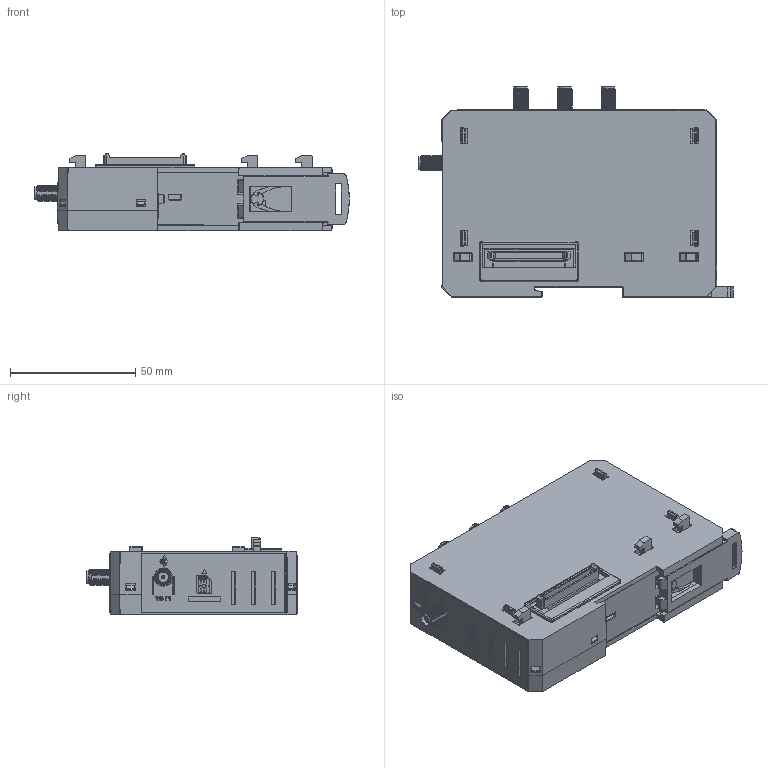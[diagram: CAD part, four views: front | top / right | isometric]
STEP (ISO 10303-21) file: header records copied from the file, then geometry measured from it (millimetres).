
FILE_DESCRIPTION (( 'STEP AP203' ), '1' );
FILE_NAME ('PLUG-IN_WIFI - PIENO.STEP', '2024-07-31T15:02:45', ( '' ), ( '' ), 'SwSTEP 2.0', 'SolidWorks 2024', '' );
FILE_SCHEMA (( 'CONFIG_CONTROL_DESIGN' ));
Products named in the file (1): PLUG-IN_WIFI - PIENO
Bounding box: 125.82 x 84.28 x 31.01 mm (x, y, z)
Volume: 200642.1 mm3; surface area: 38128.6 mm2
Topology: 1 solids, 12 shells, 4153 faces, 10894 edges, 6950 vertices
Faces by surface type: plane 2214, cylinder 1001, bspline 664, cone 109, torus 83, sphere 82
Entity records: 210920 total; most frequent: CARTESIAN_POINT 115887, ORIENTED_EDGE 21688, DIRECTION 16788, EDGE_CURVE 10844, VERTEX_POINT 6950, VECTOR 6872, LINE 6872, AXIS2_PLACEMENT_3D 4958
